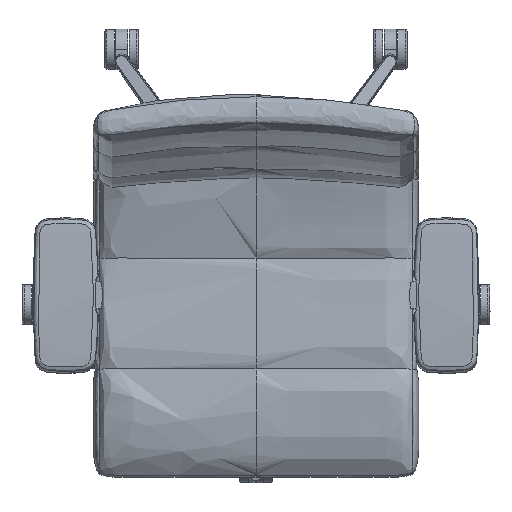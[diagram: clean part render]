
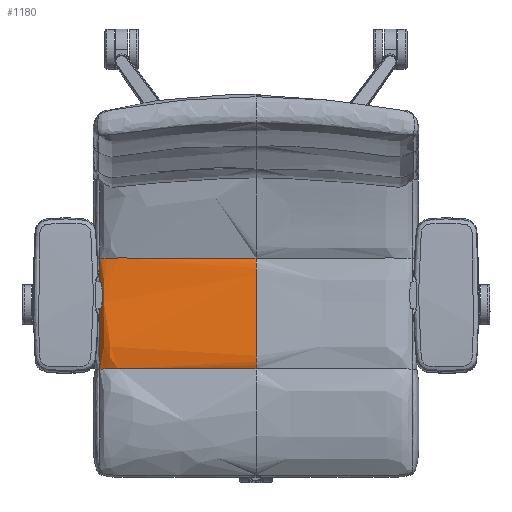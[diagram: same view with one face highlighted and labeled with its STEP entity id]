
A CAD part, top view. The second image highlights one B-rep face of the part: STEP entity #1180.
In plain terms, the highlighted free-form (B-spline) face has degree [3, 3] with [8, 8] control points.
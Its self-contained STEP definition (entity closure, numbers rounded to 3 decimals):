
#1180=ADVANCED_FACE('',(#1567),#6044,.T.);
#1567=FACE_OUTER_BOUND('',#1954,.T.);
#1954=EDGE_LOOP('',(#2455,#2456,#2457,#2458));
#2455=ORIENTED_EDGE('',*,*,#4048,.F.);
#2456=ORIENTED_EDGE('',*,*,#4057,.F.);
#2457=ORIENTED_EDGE('',*,*,#4060,.F.);
#2458=ORIENTED_EDGE('',*,*,#4059,.T.);
#4048=EDGE_CURVE('',#5490,#5489,#4949,.T.);
#4057=EDGE_CURVE('',#5496,#5490,#4958,.T.);
#4059=EDGE_CURVE('',#5497,#5489,#4960,.T.);
#4060=EDGE_CURVE('',#5497,#5496,#4961,.T.);
#4949=B_SPLINE_CURVE_WITH_KNOTS('',3,(#9964,#9965,#9966,#9967,#9968,#9969,
#9970,#9971),.UNSPECIFIED.,.F.,.F.,(4,1,1,1,1,4),(-5.,-4.,-3.,-2.,-1.,0.),
 .UNSPECIFIED.);
#4958=B_SPLINE_CURVE_WITH_KNOTS('',3,(#10033,#10034,#10035,#10036,#10037,
#10038,#10039,#10040),.UNSPECIFIED.,.F.,.F.,(4,1,1,1,1,4),(-5.,-4.,-3.,
-2.,-1.,0.),.UNSPECIFIED.);
#4960=B_SPLINE_CURVE_WITH_KNOTS('',3,(#10049,#10050,#10051,#10052,#10053,
#10054,#10055,#10056),.UNSPECIFIED.,.F.,.F.,(4,1,1,1,1,4),(-5.,-4.,-3.,
-2.,-1.,0.),.UNSPECIFIED.);
#4961=B_SPLINE_CURVE_WITH_KNOTS('',3,(#10057,#10058,#10059,#10060,#10061,
#10062,#10063,#10064),.UNSPECIFIED.,.F.,.F.,(4,1,1,1,1,4),(0.,1.,2.,3.,
4.,5.),.UNSPECIFIED.);
#5489=VERTEX_POINT('',#9936);
#5490=VERTEX_POINT('',#9937);
#5496=VERTEX_POINT('',#9943);
#5497=VERTEX_POINT('',#9944);
#6044=B_SPLINE_SURFACE_WITH_KNOTS('',3,3,((#9223,#9224,#9225,#9226,#9227,
#9228,#9229,#9230),(#9231,#9232,#9233,#9234,#9235,#9236,#9237,#9238),(#9239,
#9240,#9241,#9242,#9243,#9244,#9245,#9246),(#9247,#9248,#9249,#9250,#9251,
#9252,#9253,#9254),(#9255,#9256,#9257,#9258,#9259,#9260,#9261,#9262),(#9263,
#9264,#9265,#9266,#9267,#9268,#9269,#9270),(#9271,#9272,#9273,#9274,#9275,
#9276,#9277,#9278),(#9279,#9280,#9281,#9282,#9283,#9284,#9285,#9286)),
 .UNSPECIFIED.,.F.,.F.,.F.,(4,1,1,1,1,4),(4,1,1,1,1,4),(0.,1.,2.,3.,4.,
5.),(0.,1.,2.,3.,4.,5.),.UNSPECIFIED.);
#9223=CARTESIAN_POINT('',(-232.,-18.099,462.931));
#9224=CARTESIAN_POINT('',(-225.857,-17.959,467.495));
#9225=CARTESIAN_POINT('',(-193.577,-17.768,473.724));
#9226=CARTESIAN_POINT('',(-145.171,-17.841,471.327));
#9227=CARTESIAN_POINT('',(-96.779,-17.894,469.616));
#9228=CARTESIAN_POINT('',(-48.388,-17.925,468.59));
#9229=CARTESIAN_POINT('',(-16.129,-17.932,468.362));
#9230=CARTESIAN_POINT('',(0.,-17.932,468.362));
#9231=CARTESIAN_POINT('',(-232.,-29.037,463.053));
#9232=CARTESIAN_POINT('',(-225.912,-28.718,473.807));
#9233=CARTESIAN_POINT('',(-193.71,-28.56,479.57));
#9234=CARTESIAN_POINT('',(-145.34,-28.664,476.96));
#9235=CARTESIAN_POINT('',(-96.92,-28.738,475.094));
#9236=CARTESIAN_POINT('',(-48.468,-28.783,473.974));
#9237=CARTESIAN_POINT('',(-16.156,-28.793,473.725));
#9238=CARTESIAN_POINT('',(0.,-28.793,473.725));
#9239=CARTESIAN_POINT('',(-232.,-51.147,464.384));
#9240=CARTESIAN_POINT('',(-225.905,-50.727,477.981));
#9241=CARTESIAN_POINT('',(-193.693,-50.648,480.465));
#9242=CARTESIAN_POINT('',(-145.319,-50.736,477.529));
#9243=CARTESIAN_POINT('',(-96.902,-50.799,475.429));
#9244=CARTESIAN_POINT('',(-48.458,-50.837,474.169));
#9245=CARTESIAN_POINT('',(-16.153,-50.846,473.889));
#9246=CARTESIAN_POINT('',(0.,-50.846,473.888));
#9247=CARTESIAN_POINT('',(-232.,-84.02,467.557));
#9248=CARTESIAN_POINT('',(-225.904,-83.613,481.124));
#9249=CARTESIAN_POINT('',(-193.689,-83.557,483.552));
#9250=CARTESIAN_POINT('',(-145.314,-83.672,480.549));
#9251=CARTESIAN_POINT('',(-96.898,-83.754,478.403));
#9252=CARTESIAN_POINT('',(-48.456,-83.804,477.114));
#9253=CARTESIAN_POINT('',(-16.152,-83.815,476.828));
#9254=CARTESIAN_POINT('',(0.,-83.815,476.828));
#9255=CARTESIAN_POINT('',(-232.,-116.928,470.698));
#9256=CARTESIAN_POINT('',(-225.908,-116.514,484.357));
#9257=CARTESIAN_POINT('',(-193.698,-116.446,486.951));
#9258=CARTESIAN_POINT('',(-145.326,-116.546,484.143));
#9259=CARTESIAN_POINT('',(-96.909,-116.618,482.136));
#9260=CARTESIAN_POINT('',(-48.462,-116.662,480.931));
#9261=CARTESIAN_POINT('',(-16.154,-116.672,480.663));
#9262=CARTESIAN_POINT('',(0.,-116.672,480.663));
#9263=CARTESIAN_POINT('',(-232.,-149.84,473.752));
#9264=CARTESIAN_POINT('',(-225.914,-149.417,487.532));
#9265=CARTESIAN_POINT('',(-193.713,-149.333,490.346));
#9266=CARTESIAN_POINT('',(-145.344,-149.414,487.795));
#9267=CARTESIAN_POINT('',(-96.924,-149.473,485.971));
#9268=CARTESIAN_POINT('',(-48.47,-149.508,484.876));
#9269=CARTESIAN_POINT('',(-16.157,-149.516,484.632));
#9270=CARTESIAN_POINT('',(0.,-149.516,484.632));
#9271=CARTESIAN_POINT('',(-232.,-171.771,475.778));
#9272=CARTESIAN_POINT('',(-225.917,-171.439,486.624));
#9273=CARTESIAN_POINT('',(-193.721,-171.259,492.552));
#9274=CARTESIAN_POINT('',(-145.354,-171.336,490.135));
#9275=CARTESIAN_POINT('',(-96.931,-171.391,488.407));
#9276=CARTESIAN_POINT('',(-48.475,-171.424,487.37));
#9277=CARTESIAN_POINT('',(-16.158,-171.431,487.14));
#9278=CARTESIAN_POINT('',(0.,-171.431,487.139));
#9279=CARTESIAN_POINT('',(-232.,-182.753,476.734));
#9280=CARTESIAN_POINT('',(-225.881,-182.634,480.603));
#9281=CARTESIAN_POINT('',(-193.633,-182.42,487.566));
#9282=CARTESIAN_POINT('',(-145.244,-182.493,485.195));
#9283=CARTESIAN_POINT('',(-96.842,-182.545,483.502));
#9284=CARTESIAN_POINT('',(-48.424,-182.576,482.486));
#9285=CARTESIAN_POINT('',(-16.141,-182.583,482.26));
#9286=CARTESIAN_POINT('',(0.,-182.583,482.26));
#9936=CARTESIAN_POINT('',(-232.,-18.099,462.931));
#9937=CARTESIAN_POINT('',(-232.,-182.753,476.734));
#9943=CARTESIAN_POINT('',(0.,-182.583,482.26));
#9944=CARTESIAN_POINT('',(0.,-17.932,468.362));
#9964=CARTESIAN_POINT('',(-232.,-182.753,476.734));
#9965=CARTESIAN_POINT('',(-232.,-171.771,475.778));
#9966=CARTESIAN_POINT('',(-232.,-149.84,473.752));
#9967=CARTESIAN_POINT('',(-232.,-116.928,470.698));
#9968=CARTESIAN_POINT('',(-232.,-84.02,467.557));
#9969=CARTESIAN_POINT('',(-232.,-51.147,464.384));
#9970=CARTESIAN_POINT('',(-232.,-29.037,463.053));
#9971=CARTESIAN_POINT('',(-232.,-18.099,462.931));
#10033=CARTESIAN_POINT('',(0.,-182.583,482.26));
#10034=CARTESIAN_POINT('',(-16.141,-182.583,482.26));
#10035=CARTESIAN_POINT('',(-48.424,-182.576,482.486));
#10036=CARTESIAN_POINT('',(-96.842,-182.545,483.502));
#10037=CARTESIAN_POINT('',(-145.244,-182.493,485.195));
#10038=CARTESIAN_POINT('',(-193.633,-182.42,487.566));
#10039=CARTESIAN_POINT('',(-225.881,-182.634,480.603));
#10040=CARTESIAN_POINT('',(-232.,-182.753,476.734));
#10049=CARTESIAN_POINT('',(0.,-17.932,468.362));
#10050=CARTESIAN_POINT('',(-16.129,-17.932,468.362));
#10051=CARTESIAN_POINT('',(-48.388,-17.925,468.59));
#10052=CARTESIAN_POINT('',(-96.779,-17.894,469.616));
#10053=CARTESIAN_POINT('',(-145.171,-17.841,471.327));
#10054=CARTESIAN_POINT('',(-193.577,-17.768,473.724));
#10055=CARTESIAN_POINT('',(-225.857,-17.959,467.495));
#10056=CARTESIAN_POINT('',(-232.,-18.099,462.931));
#10057=CARTESIAN_POINT('',(0.,-17.932,468.362));
#10058=CARTESIAN_POINT('',(0.,-28.793,473.725));
#10059=CARTESIAN_POINT('',(0.,-50.846,473.888));
#10060=CARTESIAN_POINT('',(0.,-83.815,476.828));
#10061=CARTESIAN_POINT('',(0.,-116.672,480.663));
#10062=CARTESIAN_POINT('',(0.,-149.516,484.632));
#10063=CARTESIAN_POINT('',(0.,-171.431,487.139));
#10064=CARTESIAN_POINT('',(0.,-182.583,482.26));
